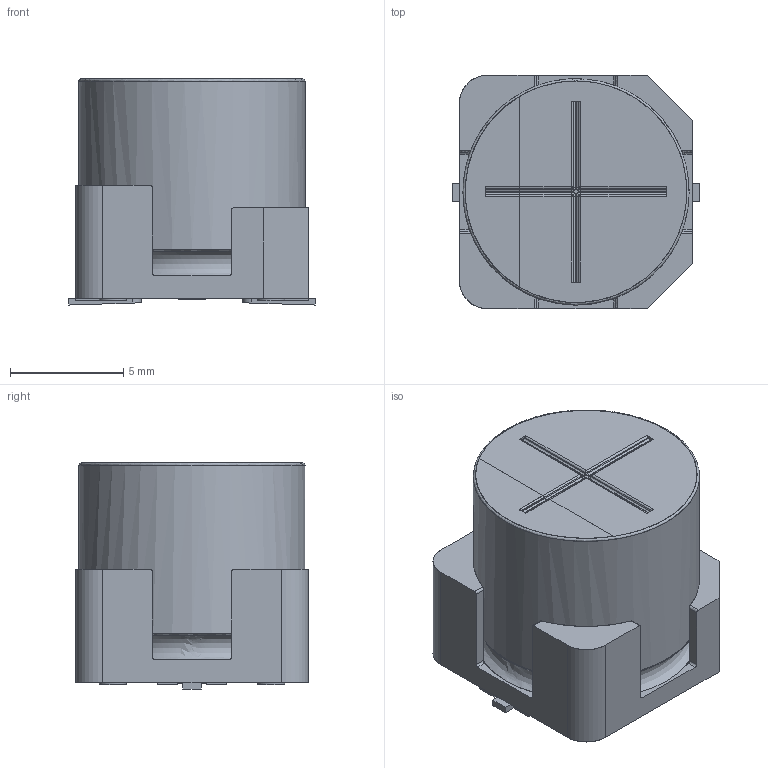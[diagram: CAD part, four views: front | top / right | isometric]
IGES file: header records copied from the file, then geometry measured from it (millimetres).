
Start section: JAMA-IS VERSION  1.0
Bounding box: 10.9 x 10.3 x 10 mm (x, y, z)
Surface area: 914.9 mm2 (no closed solid volume)
Topology: 0 solids, 0 shells, 163 faces, 1451 edges, 1431 vertices
Faces by surface type: bspline 163
